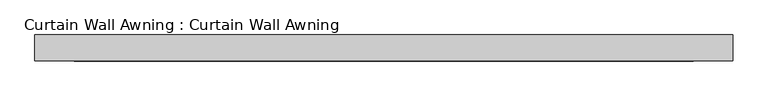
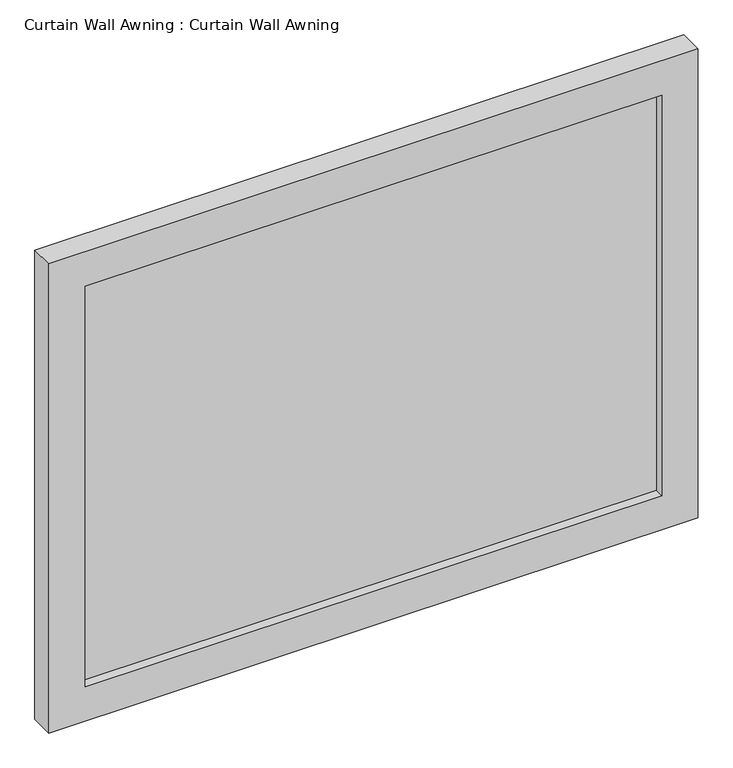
"""IFC4 building model written with IfcOpenShell, lengths in millimetres: plate geometry, Curtain Wall Awning : Curtain Wall Awning."""

from ifc_helpers import new_model, si_unit, frame, origin, place, context, project, spatial, polyline, outline, extrude, source, transform, mapped, element, save


def curtain_wall_awning_curtain_wall_awning_aea928d2(model_context):
    return source(origin(), model_context, "Body", "SweptSolid", [
        extrude(outline(polyline([(603.8830663, 44.45), (-603.8830663, 44.45), (-603.8830663, 57.15), (603.8830663, 57.15), (603.8830663, 44.45)])), frame((0.0, 0.0, 76.2), z_axis=(0.0, 0.0, 1.0), x_axis=(1.0, 0.0, 0.0)), (0.0, 0.0, 1.0), 886.3193103),
        extrude(outline(polyline([(1038.7193103, -680.0830663), (0.0, -680.0830663), (0.0, 680.0830663), (1038.7193103, 680.0830663), (1038.7193103, -680.0830663)]), holes=[polyline([(962.5193103, -603.8830663), (962.5193103, 603.8830663), (76.2, 603.8830663), (76.2, -603.8830663), (962.5193103, -603.8830663)])]), frame((0.0, 25.4, 0.0), z_axis=(0.0, 1.0, 0.0), x_axis=(0.0, 0.0, 1.0)), (0.0, 0.0, 1.0), 50.8),
    ])


if __name__ == "__main__":
    model = new_model("IFC4")
    model_context = context("Model", 3, world=origin())
    ifc_project = project(units=[si_unit("LENGTHUNIT", "METRE", prefix="MILLI")], contexts=[model_context])
    site = spatial("IfcSite", under=ifc_project)
    building = spatial("IfcBuilding", under=site)
    placement = place(None, origin())
    curtain_wall_awning_curtain_wall_awning_shape = curtain_wall_awning_curtain_wall_awning_aea928d2(model_context)
    element("IfcPlate", 1, ObjectType="Curtain Wall Awning : Curtain Wall Awning", at=placement, inside=building, context=model_context, shape_type="MappedRepresentation", body=[
        mapped(curtain_wall_awning_curtain_wall_awning_shape, transform((0.0, 0.0, 0.0), x_axis=(1.0, 0.0, 0.0), y_axis=(0.0, 1.0, 0.0), z_axis=(0.0, 0.0, 1.0))),
    ])
    save(model, "model.ifc")
